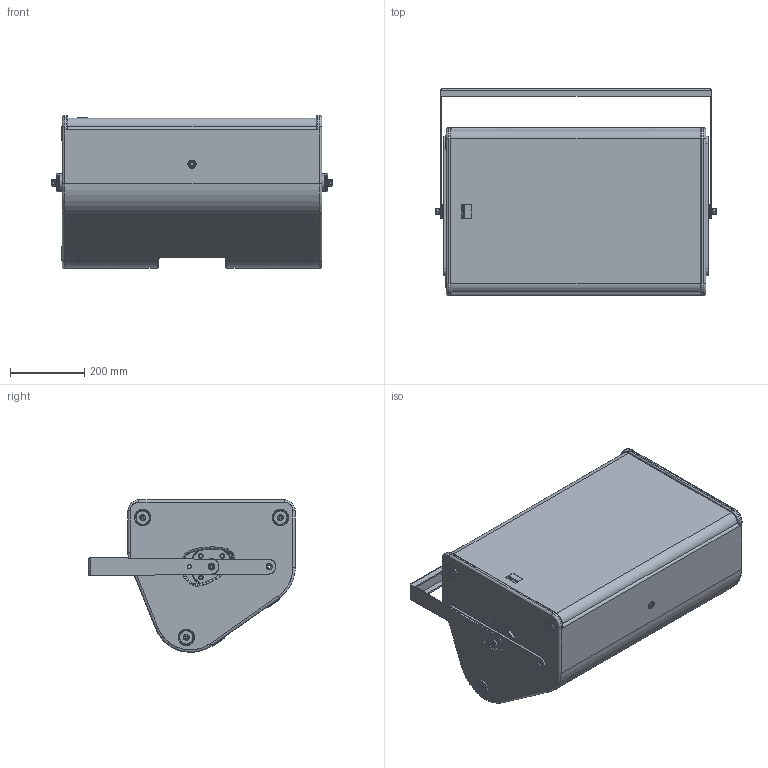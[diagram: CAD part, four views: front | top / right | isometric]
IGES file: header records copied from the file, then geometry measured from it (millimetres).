
Start section: SolidWorks IGES file using analytic representation for surfaces
Global section: file name: C:\Dokumente und Einstellungen\PC_Fabian\Desktop\TS-Serie\Seeburg_TSM15_Bracket_hor.IGS; native system: SolidWorks 2009; preprocessor: SolidWorks 2009; author: PC_Fabian; date: 121017.141758; units: millimetre
Bounding box: 755.47 x 555 x 410 mm (x, y, z)
Surface area: 3134957.3 mm2 (no closed solid volume)
Topology: 0 solids, 0 shells, 1268 faces, 16875 edges, 16865 vertices
Faces by surface type: revolution 712, bspline 556
